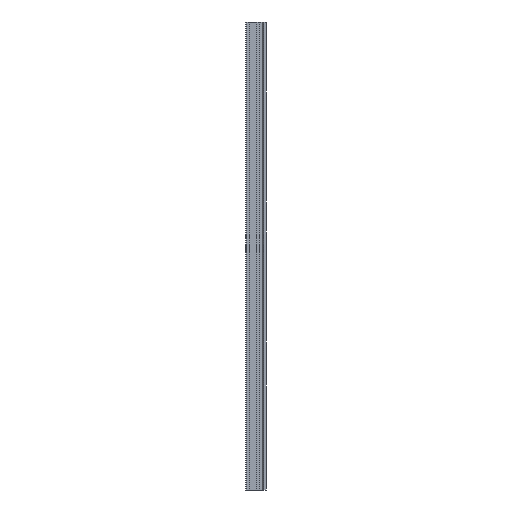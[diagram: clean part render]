
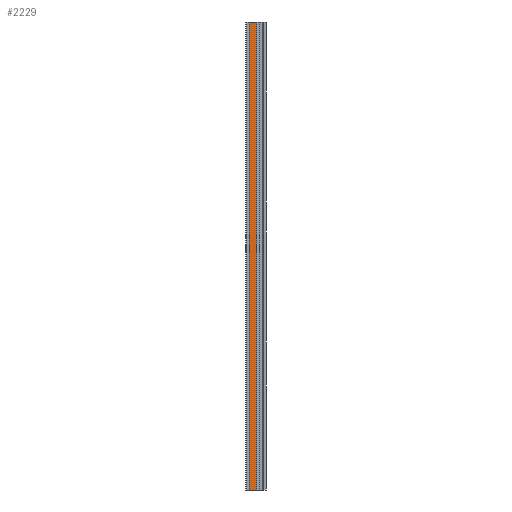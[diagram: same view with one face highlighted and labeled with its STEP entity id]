
A CAD part, left-side view. The second image highlights one B-rep face of the part: STEP entity #2229.
In plain terms, the highlighted planar face has unit normal (-1, 0, 0).
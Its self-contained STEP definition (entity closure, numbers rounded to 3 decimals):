
#259=FACE_OUTER_BOUND('',#401,.T.);
#401=EDGE_LOOP('',(#1981,#1982,#1983,#1984));
#540=LINE('',#3440,#782);
#635=LINE('',#3655,#877);
#636=LINE('',#3658,#878);
#637=LINE('',#3659,#879);
#782=VECTOR('',#2821,10.);
#877=VECTOR('',#3012,10.);
#878=VECTOR('',#3015,10.);
#879=VECTOR('',#3016,10.);
#1025=VERTEX_POINT('',#3437);
#1026=VERTEX_POINT('',#3439);
#1098=VERTEX_POINT('',#3653);
#1099=VERTEX_POINT('',#3657);
#1297=EDGE_CURVE('',#1025,#1026,#540,.T.);
#1405=EDGE_CURVE('',#1098,#1026,#635,.T.);
#1406=EDGE_CURVE('',#1099,#1098,#636,.T.);
#1407=EDGE_CURVE('',#1099,#1025,#637,.T.);
#1981=ORIENTED_EDGE('',*,*,#1406,.T.);
#1982=ORIENTED_EDGE('',*,*,#1405,.T.);
#1983=ORIENTED_EDGE('',*,*,#1297,.F.);
#1984=ORIENTED_EDGE('',*,*,#1407,.F.);
#2123=PLANE('',#2434);
#2229=ADVANCED_FACE('',(#259),#2123,.T.);
#2434=AXIS2_PLACEMENT_3D('',#3656,#3013,#3014);
#2821=DIRECTION('',(0.,-1.,0.));
#3012=DIRECTION('',(0.,0.,1.));
#3013=DIRECTION('center_axis',(-1.,0.,0.));
#3014=DIRECTION('ref_axis',(0.,-1.,0.));
#3015=DIRECTION('',(0.,-1.,0.));
#3016=DIRECTION('',(0.,0.,1.));
#3437=CARTESIAN_POINT('',(-13.5,12.5,337.));
#3439=CARTESIAN_POINT('',(-13.5,7.,337.));
#3440=CARTESIAN_POINT('',(-13.5,12.5,337.));
#3653=CARTESIAN_POINT('',(-13.5,7.,0.));
#3655=CARTESIAN_POINT('',(-13.5,7.,0.));
#3656=CARTESIAN_POINT('Origin',(-13.5,12.5,0.));
#3657=CARTESIAN_POINT('',(-13.5,12.5,0.));
#3658=CARTESIAN_POINT('',(-13.5,12.5,0.));
#3659=CARTESIAN_POINT('',(-13.5,12.5,0.));
